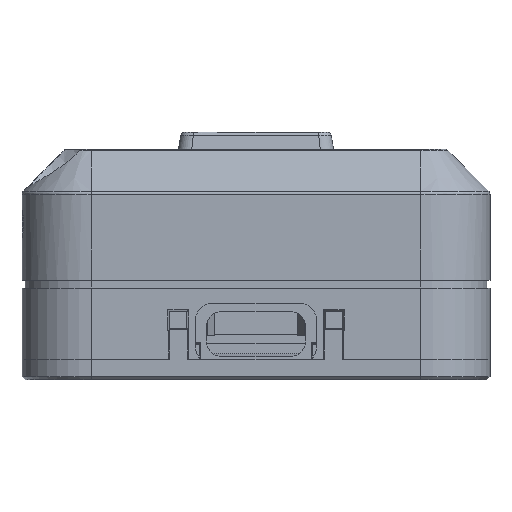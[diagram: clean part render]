
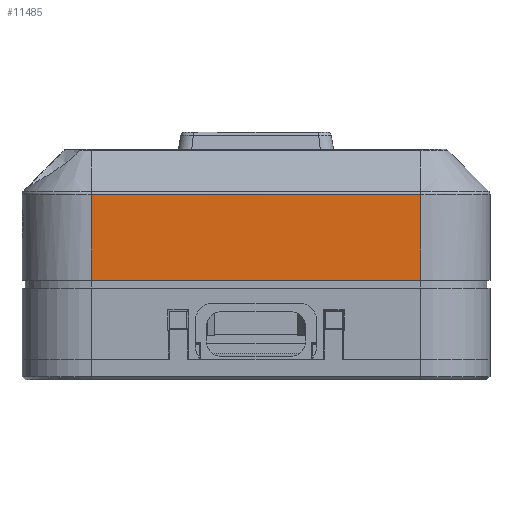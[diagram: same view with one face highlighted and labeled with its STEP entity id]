
A CAD part, front view. The second image highlights one B-rep face of the part: STEP entity #11485.
In plain terms, the highlighted planar face has unit normal (0, -1, 0).
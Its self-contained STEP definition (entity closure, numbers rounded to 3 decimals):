
#3005 = CYLINDRICAL_SURFACE('',#3006,0.5);
#3006 = AXIS2_PLACEMENT_3D('',#3007,#3008,#3009);
#3007 = CARTESIAN_POINT('',(19.,-23.5,21.393));
#3008 = DIRECTION('',(-1.,-0.,-0.));
#3009 = DIRECTION('',(0.,-1.,0.));
#3477 = VERTEX_POINT('',#3478);
#3478 = CARTESIAN_POINT('',(-19.,-24.,21.393));
#3496 = CYLINDRICAL_SURFACE('',#3497,8.);
#3497 = AXIS2_PLACEMENT_3D('',#3498,#3499,#3500);
#3498 = CARTESIAN_POINT('',(-19.,-16.,2.4));
#3499 = DIRECTION('',(0.,0.,1.));
#3500 = DIRECTION('',(-1.,-0.,0.));
#4268 = VERTEX_POINT('',#4269);
#4269 = CARTESIAN_POINT('',(19.,-24.,21.393));
#4310 = CYLINDRICAL_SURFACE('',#4311,8.);
#4311 = AXIS2_PLACEMENT_3D('',#4312,#4313,#4314);
#4312 = CARTESIAN_POINT('',(19.,-16.,2.4));
#4313 = DIRECTION('',(0.,0.,1.));
#4314 = DIRECTION('',(1.,0.,-0.));
#4333 = EDGE_CURVE('',#4268,#3477,#4334,.T.);
#4334 = SURFACE_CURVE('',#4335,(#4339,#4346),.PCURVE_S1.);
#4335 = LINE('',#4336,#4337);
#4336 = CARTESIAN_POINT('',(19.,-24.,21.393));
#4337 = VECTOR('',#4338,1.);
#4338 = DIRECTION('',(-1.,-0.,-0.));
#4339 = PCURVE('',#3005,#4340);
#4340 = DEFINITIONAL_REPRESENTATION('',(#4341),#4345);
#4341 = LINE('',#4342,#4343);
#4342 = CARTESIAN_POINT('',(0.,0.));
#4343 = VECTOR('',#4344,1.);
#4344 = DIRECTION('',(0.,1.));
#4345 = ( GEOMETRIC_REPRESENTATION_CONTEXT(2) 
PARAMETRIC_REPRESENTATION_CONTEXT() REPRESENTATION_CONTEXT('2D SPACE',''
  ) );
#4346 = PCURVE('',#4347,#4352);
#4347 = PLANE('',#4348);
#4348 = AXIS2_PLACEMENT_3D('',#4349,#4350,#4351);
#4349 = CARTESIAN_POINT('',(-27.,-24.,2.4));
#4350 = DIRECTION('',(0.,1.,0.));
#4351 = DIRECTION('',(0.,0.,1.));
#4352 = DEFINITIONAL_REPRESENTATION('',(#4353),#4357);
#4353 = LINE('',#4354,#4355);
#4354 = CARTESIAN_POINT('',(18.993,46.));
#4355 = VECTOR('',#4356,1.);
#4356 = DIRECTION('',(0.,-1.));
#4357 = ( GEOMETRIC_REPRESENTATION_CONTEXT(2) 
PARAMETRIC_REPRESENTATION_CONTEXT() REPRESENTATION_CONTEXT('2D SPACE',''
  ) );
#4803 = VERTEX_POINT('',#4804);
#4804 = CARTESIAN_POINT('',(-19.,-24.,11.5));
#4819 = PLANE('',#4820);
#4820 = AXIS2_PLACEMENT_3D('',#4821,#4822,#4823);
#4821 = CARTESIAN_POINT('',(-27.5,-24.5,11.5));
#4822 = DIRECTION('',(0.,0.,1.));
#4823 = DIRECTION('',(1.,0.,0.));
#4831 = EDGE_CURVE('',#4803,#3477,#4832,.T.);
#4832 = SURFACE_CURVE('',#4833,(#4837,#4844),.PCURVE_S1.);
#4833 = LINE('',#4834,#4835);
#4834 = CARTESIAN_POINT('',(-19.,-24.,2.4));
#4835 = VECTOR('',#4836,1.);
#4836 = DIRECTION('',(0.,0.,1.));
#4837 = PCURVE('',#3496,#4838);
#4838 = DEFINITIONAL_REPRESENTATION('',(#4839),#4843);
#4839 = LINE('',#4840,#4841);
#4840 = CARTESIAN_POINT('',(1.571,0.));
#4841 = VECTOR('',#4842,1.);
#4842 = DIRECTION('',(0.,1.));
#4843 = ( GEOMETRIC_REPRESENTATION_CONTEXT(2) 
PARAMETRIC_REPRESENTATION_CONTEXT() REPRESENTATION_CONTEXT('2D SPACE',''
  ) );
#4844 = PCURVE('',#4347,#4845);
#4845 = DEFINITIONAL_REPRESENTATION('',(#4846),#4850);
#4846 = LINE('',#4847,#4848);
#4847 = CARTESIAN_POINT('',(0.,8.));
#4848 = VECTOR('',#4849,1.);
#4849 = DIRECTION('',(1.,0.));
#4850 = ( GEOMETRIC_REPRESENTATION_CONTEXT(2) 
PARAMETRIC_REPRESENTATION_CONTEXT() REPRESENTATION_CONTEXT('2D SPACE',''
  ) );
#11441 = VERTEX_POINT('',#11442);
#11442 = CARTESIAN_POINT('',(19.,-24.,11.5));
#11464 = EDGE_CURVE('',#11441,#4268,#11465,.T.);
#11465 = SURFACE_CURVE('',#11466,(#11470,#11477),.PCURVE_S1.);
#11466 = LINE('',#11467,#11468);
#11467 = CARTESIAN_POINT('',(19.,-24.,2.4));
#11468 = VECTOR('',#11469,1.);
#11469 = DIRECTION('',(0.,0.,1.));
#11470 = PCURVE('',#4310,#11471);
#11471 = DEFINITIONAL_REPRESENTATION('',(#11472),#11476);
#11472 = LINE('',#11473,#11474);
#11473 = CARTESIAN_POINT('',(-1.571,0.));
#11474 = VECTOR('',#11475,1.);
#11475 = DIRECTION('',(-0.,1.));
#11476 = ( GEOMETRIC_REPRESENTATION_CONTEXT(2) 
PARAMETRIC_REPRESENTATION_CONTEXT() REPRESENTATION_CONTEXT('2D SPACE',''
  ) );
#11477 = PCURVE('',#4347,#11478);
#11478 = DEFINITIONAL_REPRESENTATION('',(#11479),#11483);
#11479 = LINE('',#11480,#11481);
#11480 = CARTESIAN_POINT('',(0.,46.));
#11481 = VECTOR('',#11482,1.);
#11482 = DIRECTION('',(1.,0.));
#11483 = ( GEOMETRIC_REPRESENTATION_CONTEXT(2) 
PARAMETRIC_REPRESENTATION_CONTEXT() REPRESENTATION_CONTEXT('2D SPACE',''
  ) );
#11485 = ADVANCED_FACE('',(#11486),#4347,.F.);
#11486 = FACE_BOUND('',#11487,.F.);
#11487 = EDGE_LOOP('',(#11488,#11507,#11508,#11509));
#11488 = ORIENTED_EDGE('',*,*,#11489,.F.);
#11489 = EDGE_CURVE('',#4803,#11441,#11490,.T.);
#11490 = SURFACE_CURVE('',#11491,(#11495,#11501),.PCURVE_S1.);
#11491 = LINE('',#11492,#11493);
#11492 = CARTESIAN_POINT('',(-27.25,-24.,11.5));
#11493 = VECTOR('',#11494,1.);
#11494 = DIRECTION('',(1.,0.,0.));
#11495 = PCURVE('',#4347,#11496);
#11496 = DEFINITIONAL_REPRESENTATION('',(#11497),#11500);
#11497 = B_SPLINE_CURVE_WITH_KNOTS('',1,(#11498,#11499),.UNSPECIFIED.,
  .F.,.F.,(2,2),(8.25,46.25),.PIECEWISE_BEZIER_KNOTS.);
#11498 = CARTESIAN_POINT('',(9.1,8.));
#11499 = CARTESIAN_POINT('',(9.1,46.));
#11500 = ( GEOMETRIC_REPRESENTATION_CONTEXT(2) 
PARAMETRIC_REPRESENTATION_CONTEXT() REPRESENTATION_CONTEXT('2D SPACE',''
  ) );
#11501 = PCURVE('',#4819,#11502);
#11502 = DEFINITIONAL_REPRESENTATION('',(#11503),#11506);
#11503 = B_SPLINE_CURVE_WITH_KNOTS('',1,(#11504,#11505),.UNSPECIFIED.,
  .F.,.F.,(2,2),(8.25,46.25),.PIECEWISE_BEZIER_KNOTS.);
#11504 = CARTESIAN_POINT('',(8.5,0.5));
#11505 = CARTESIAN_POINT('',(46.5,0.5));
#11506 = ( GEOMETRIC_REPRESENTATION_CONTEXT(2) 
PARAMETRIC_REPRESENTATION_CONTEXT() REPRESENTATION_CONTEXT('2D SPACE',''
  ) );
#11507 = ORIENTED_EDGE('',*,*,#4831,.T.);
#11508 = ORIENTED_EDGE('',*,*,#4333,.F.);
#11509 = ORIENTED_EDGE('',*,*,#11464,.F.);
